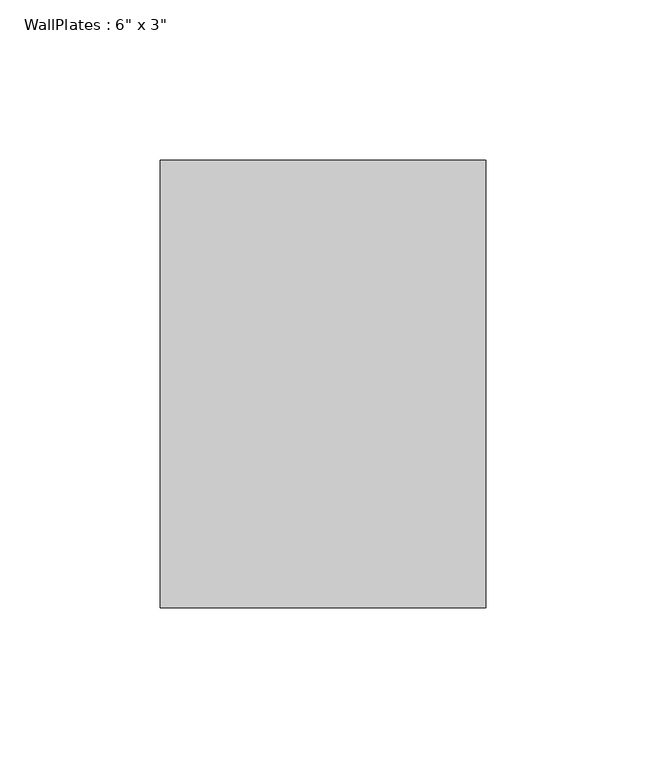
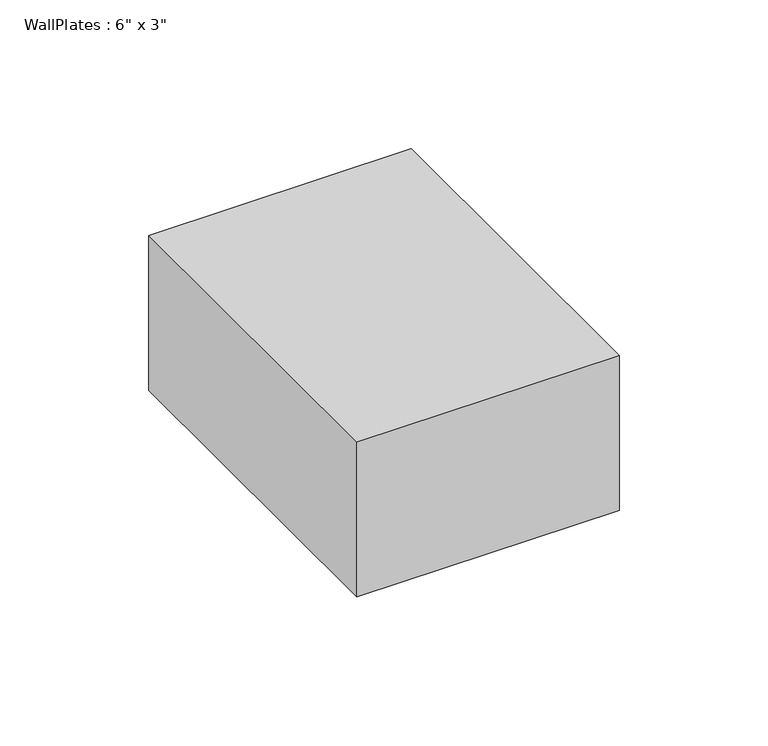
"""IFC4 building model written with IfcOpenShell, lengths in millimetres: beam geometry."""

from ifc_helpers import new_model, si_unit, frame, origin, place, context, project, spatial, polyline, outline, extrude, source, transform, mapped, element, save


def beam_14a9e158(model_context):
    return source(origin(), model_context, "Body", "SweptSolid", [
        extrude(outline(polyline([(-50.81, -69.85), (-50.81, 69.85), (50.81, 69.85), (50.81, -69.85), (-50.81, -69.85)])), frame((0.0, 0.0, -31.75), z_axis=(0.0, 0.0, 1.0), x_axis=(1.0, 0.0, 0.0)), (0.0, 0.0, 1.0), 63.5),
    ])


if __name__ == "__main__":
    model = new_model("IFC4")
    model_context = context("Model", 3, world=origin())
    ifc_project = project(units=[si_unit("LENGTHUNIT", "METRE", prefix="MILLI")], contexts=[model_context])
    site = spatial("IfcSite", under=ifc_project)
    building = spatial("IfcBuilding", under=site)
    placement = place(None, origin())
    beam_shape = beam_14a9e158(model_context)
    element("IfcBeam", 1, ObjectType="WallPlates : 6\" x 3\"", at=placement, inside=building, context=model_context, shape_type="MappedRepresentation", body=[
        mapped(beam_shape, transform((0.0, 0.0, 0.0), x_axis=(1.0, 0.0, 0.0), y_axis=(0.0, 1.0, 0.0), z_axis=(0.0, 0.0, 1.0))),
    ])
    save(model, "model.ifc")
